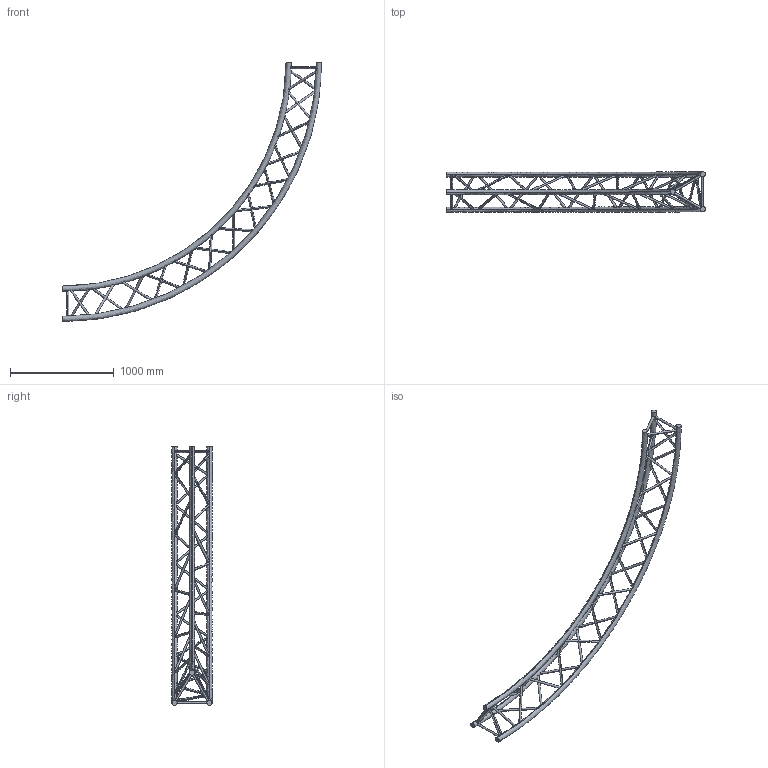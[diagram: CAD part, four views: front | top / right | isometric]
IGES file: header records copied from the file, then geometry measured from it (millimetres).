
Start section: SolidWorks IGES file using analytic representation for surfaces
Global section: file name: K:\BIBLIO\asd_biblio\SX390\Cercles\SXC39PI\SXC39500PI\SXC39500PI.IGS; native system: SolidWorks 2009; preprocessor: SolidWorks 2009; author: des3; date: 091021.134041; units: millimetre
Bounding box: 2500 x 387 x 2500 mm (x, y, z)
Surface area: 2749150.4 mm2 (no closed solid volume)
Topology: 0 solids, 0 shells, 102 faces, 7447 edges, 7447 vertices
Faces by surface type: revolution 90, bspline 12
